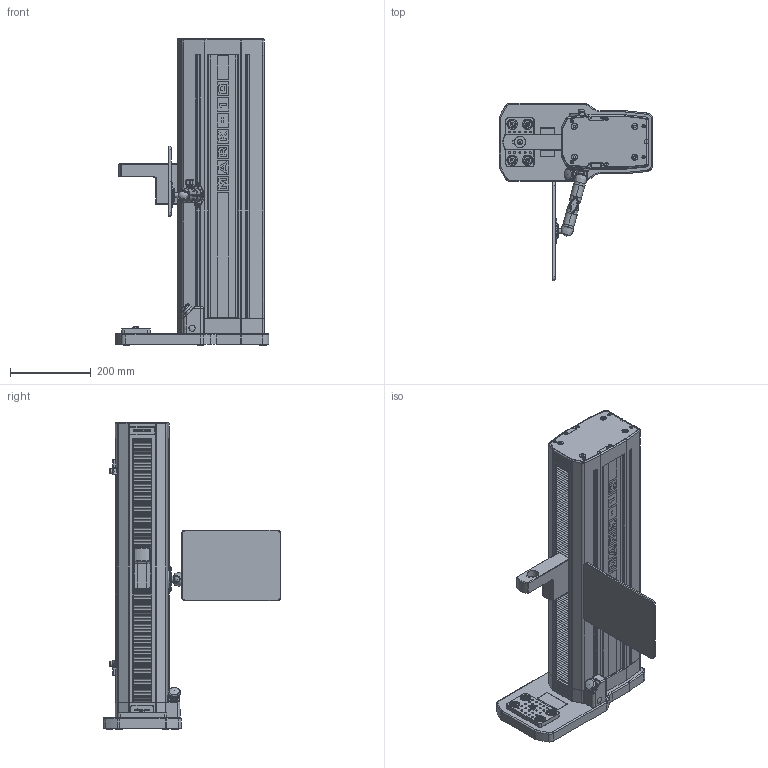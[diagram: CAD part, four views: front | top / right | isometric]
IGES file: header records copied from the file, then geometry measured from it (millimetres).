
Global section: file name: F105, F305, F505 IMT; native system: Autodesk RealDWG; preprocessor: Autodesk Translation Framework DWG producer (atf_dwg_producer); organization: unknown; date: 20210205.154014; units: inch
Bounding box: 379.73 x 439.3 x 758.05 mm (x, y, z)
Volume: 21246261.7 mm3; surface area: 1412224.1 mm2
Topology: 9 solids, 16 shells, 11708 faces, 32623 edges, 21590 vertices
Faces by surface type: bspline 11708
